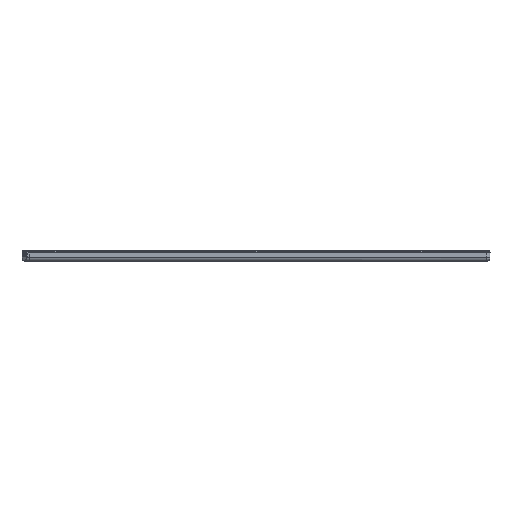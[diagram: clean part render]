
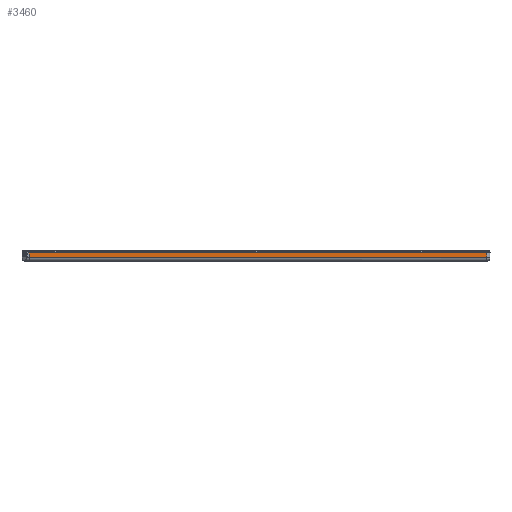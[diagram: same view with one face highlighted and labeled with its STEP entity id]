
A CAD part, left-side view. The second image highlights one B-rep face of the part: STEP entity #3460.
In plain terms, the highlighted planar face has unit normal (-1, 0, -0.018).
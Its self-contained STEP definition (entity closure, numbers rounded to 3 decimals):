
#311=PLANE('',#50035);
#3460=ADVANCED_FACE('',(#6150),#311,.T.);
#6150=FACE_OUTER_BOUND('',#8652,.T.);
#8652=EDGE_LOOP('',(#12912,#12913,#12914,#12915,#12916,#12917,#12918));
#11830=B_SPLINE_CURVE_WITH_KNOTS('',3,(#67052,#67053,#67054,#67055),
 .UNSPECIFIED.,.F.,.F.,(4,4),(0.,1.),.UNSPECIFIED.);
#11831=B_SPLINE_CURVE_WITH_KNOTS('',3,(#67057,#67058,#67059,#67060),
 .UNSPECIFIED.,.F.,.F.,(4,4),(0.,1.),.UNSPECIFIED.);
#11832=B_SPLINE_CURVE_WITH_KNOTS('',3,(#67062,#67063,#67064,#67065,#67066,
#67067,#67068,#67069,#67070,#67071),.UNSPECIFIED.,.F.,.F.,(4,3,3,4),(0.,
0.29,0.928,1.),.UNSPECIFIED.);
#11833=B_SPLINE_CURVE_WITH_KNOTS('',3,(#67073,#67074,#67075,#67076),
 .UNSPECIFIED.,.F.,.F.,(4,4),(0.,1.),.UNSPECIFIED.);
#12912=ORIENTED_EDGE('',*,*,#31393,.T.);
#12913=ORIENTED_EDGE('',*,*,#31537,.T.);
#12914=ORIENTED_EDGE('',*,*,#31538,.T.);
#12915=ORIENTED_EDGE('',*,*,#31539,.F.);
#12916=ORIENTED_EDGE('',*,*,#31540,.T.);
#12917=ORIENTED_EDGE('',*,*,#30821,.F.);
#12918=ORIENTED_EDGE('',*,*,#31541,.F.);
#26118=VERTEX_POINT('',#65536);
#26119=VERTEX_POINT('',#65537);
#26601=VERTEX_POINT('',#66756);
#26602=VERTEX_POINT('',#66758);
#26718=VERTEX_POINT('',#67056);
#26719=VERTEX_POINT('',#67061);
#26720=VERTEX_POINT('',#67072);
#30821=EDGE_CURVE('',#26118,#26119,#37841,.T.);
#31393=EDGE_CURVE('',#26602,#26601,#38317,.T.);
#31537=EDGE_CURVE('',#26601,#26718,#11830,.T.);
#31538=EDGE_CURVE('',#26718,#26719,#11831,.T.);
#31539=EDGE_CURVE('',#26720,#26719,#11832,.T.);
#31540=EDGE_CURVE('',#26720,#26119,#11833,.T.);
#31541=EDGE_CURVE('',#26602,#26118,#38372,.T.);
#37841=LINE('',#65535,#43820);
#38317=LINE('',#66757,#44296);
#38372=LINE('',#67077,#44351);
#43820=VECTOR('',#53050,1.);
#44296=VECTOR('',#53796,1.);
#44351=VECTOR('',#54035,1.);
#50035=AXIS2_PLACEMENT_3D('',#67078,#54036,#54037);
#53050=DIRECTION('',(0.,1.,0.));
#53796=DIRECTION('',(0.,1.,0.));
#54035=DIRECTION('',(0.017,0.017,-1.));
#54036=DIRECTION('',(-1.,0.,-0.017));
#54037=DIRECTION('',(0.,1.,0.));
#65535=CARTESIAN_POINT('',(-114.894,-58.604,1.613));
#65536=CARTESIAN_POINT('',(-114.894,-290.894,1.613));
#65537=CARTESIAN_POINT('',(-114.894,285.647,1.613));
#66756=CARTESIAN_POINT('',(-115.,285.647,7.7));
#66757=CARTESIAN_POINT('',(-115.,-93.397,7.7));
#66758=CARTESIAN_POINT('',(-115.,-291.001,7.7));
#67052=CARTESIAN_POINT('',(-115.,285.647,7.7));
#67053=CARTESIAN_POINT('',(-114.988,285.647,7.033));
#67054=CARTESIAN_POINT('',(-114.977,285.647,6.367));
#67055=CARTESIAN_POINT('',(-114.965,285.647,5.7));
#67056=CARTESIAN_POINT('',(-114.965,285.647,5.7));
#67057=CARTESIAN_POINT('',(-114.965,285.647,5.7));
#67058=CARTESIAN_POINT('',(-114.964,285.647,5.633));
#67059=CARTESIAN_POINT('',(-114.963,285.647,5.567));
#67060=CARTESIAN_POINT('',(-114.962,285.647,5.5));
#67061=CARTESIAN_POINT('',(-114.962,285.647,5.5));
#67062=CARTESIAN_POINT('',(-114.894,285.647,1.613));
#67063=CARTESIAN_POINT('',(-114.9,285.647,1.989));
#67064=CARTESIAN_POINT('',(-114.907,285.647,2.364));
#67065=CARTESIAN_POINT('',(-114.913,285.647,2.74));
#67066=CARTESIAN_POINT('',(-114.928,285.647,3.567));
#67067=CARTESIAN_POINT('',(-114.942,285.647,4.393));
#67068=CARTESIAN_POINT('',(-114.957,285.647,5.22));
#67069=CARTESIAN_POINT('',(-114.958,285.647,5.313));
#67070=CARTESIAN_POINT('',(-114.96,285.647,5.407));
#67071=CARTESIAN_POINT('',(-114.962,285.647,5.5));
#67072=CARTESIAN_POINT('',(-114.894,285.647,1.613));
#67073=CARTESIAN_POINT('',(-114.894,285.647,1.613));
#67074=CARTESIAN_POINT('',(-114.894,285.647,1.613));
#67075=CARTESIAN_POINT('',(-114.894,285.647,1.613));
#67076=CARTESIAN_POINT('',(-114.894,285.647,1.613));
#67077=CARTESIAN_POINT('',(-115.,-291.001,7.7));
#67078=CARTESIAN_POINT('',(-115.,-108.604,7.7));
